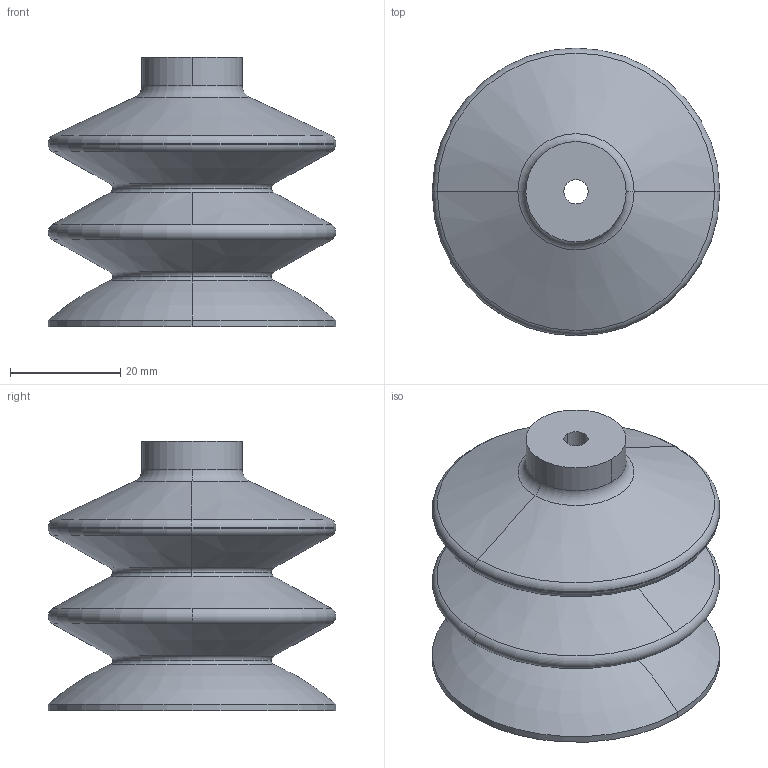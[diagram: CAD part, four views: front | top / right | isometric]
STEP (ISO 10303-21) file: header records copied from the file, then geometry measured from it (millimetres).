
FILE_DESCRIPTION (( 'STEP AP203' ), '1' );
FILE_NAME ('FSG-52-NBR-55柲攫.STEP', '2024-10-15T01:29:25', ( '' ), ( '' ), 'SwSTEP 2.0', 'SolidWorks 2018', '' );
FILE_SCHEMA (( 'CONFIG_CONTROL_DESIGN' ));
Length unit declared in the file: millimetre
Products named in the file (1): FSG-52-NBR-55柲攫
Bounding box: 52.2 x 52.2 x 49 mm (x, y, z)
Volume: 21901.2 mm3; surface area: 19036.7 mm2
Topology: 1 solids, 1 shells, 64 faces, 148 edges, 86 vertices
Faces by surface type: torus 32, cone 22, cylinder 8, plane 2
Entity records: 1927 total; most frequent: DIRECTION 396, CARTESIAN_POINT 299, ORIENTED_EDGE 296, AXIS2_PLACEMENT_3D 183, EDGE_CURVE 148, CIRCLE 118, VERTEX_POINT 86, EDGE_LOOP 66
